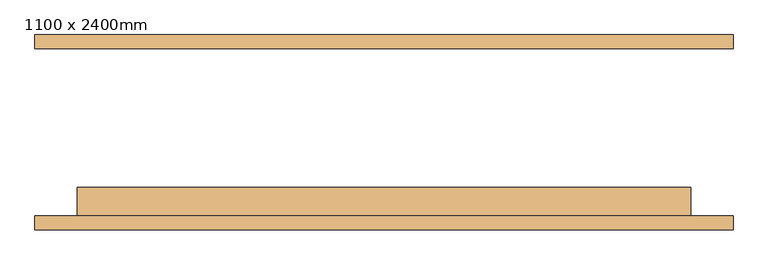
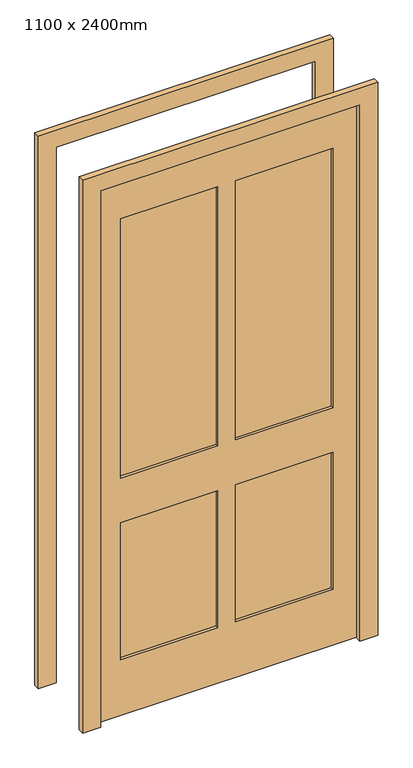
"""IFC4 building model written with IfcOpenShell, lengths in millimetres: door geometry, JednokridleOteviraveSkloVypln : 1100 x 2400mm."""

from ifc_helpers import new_model, si_unit, frame, origin, place, context, project, spatial, polyline, outline, extrude, source, transform, mapped, element, save


def door_1100_x_2400mm_ddb7a374(model_context):
    return source(origin(), model_context, "Body", "SweptSolid", [
        extrude(outline(polyline([(2476.0, -626.0), (0.0, -626.0), (0.0, -550.1240165), (2401.3906173, -550.1240165), (2401.3906173, 549.8759835), (0.0, 549.8759835), (0.0, 626.0), (2476.0, 626.0), (2476.0, -626.0)])), frame((0.0, -175.005, 0.0), z_axis=(0.0, 1.0, 0.0), x_axis=(0.0, 0.0, 1.0)), (0.0, 0.0, 1.0), 25.0),
        extrude(outline(polyline([(2476.0, 626.0), (2476.0, -626.0), (1.3906173, -626.0), (1.3906173, -550.1240165), (2400.0, -550.1240165), (2400.0, 550.0), (0.0, 550.0), (0.0, 626.0), (2476.0, 626.0)])), frame((0.0, 149.995, 0.0), z_axis=(0.0, 1.0, 0.0), x_axis=(0.0, 0.0, 1.0)), (0.0, 0.0, 1.0), 25.0),
        extrude(outline(polyline([(-37.9166629, -111.905), (-37.9166629, -137.305), (-450.0, -137.305), (-450.0, -111.905), (-37.9166629, -111.905)])), frame((0.0, 0.0, 1063.6), z_axis=(0.0, 0.0, 1.0), x_axis=(1.0, 0.0, 0.0)), (0.0, 0.0, 1.0), 1161.6046757),
        extrude(outline(polyline([(450.0, -111.905), (450.0, -137.305), (37.4271634, -137.305), (37.4271634, -111.905), (450.0, -111.905)])), frame((0.0, 0.0, 1063.6), z_axis=(0.0, 0.0, 1.0), x_axis=(1.0, 0.0, 0.0)), (0.0, 0.0, 1.0), 1161.6046757),
        extrude(outline(polyline([(-37.9166629, -111.905), (-37.9166629, -137.305), (-450.0, -137.305), (-450.0, -111.905), (-37.9166629, -111.905)])), frame((0.0, 0.0, 250.2046757), z_axis=(0.0, 0.0, 1.0), x_axis=(1.0, 0.0, 0.0)), (0.0, 0.0, 1.0), 613.6),
        extrude(outline(polyline([(450.0, -111.905), (450.0, -137.305), (37.4271634, -137.305), (37.4271634, -111.905), (450.0, -111.905)])), frame((0.0, 0.0, 250.2046757), z_axis=(0.0, 0.0, 1.0), x_axis=(1.0, 0.0, 0.0)), (0.0, 0.0, 1.0), 613.3953243),
        extrude(outline(polyline([(2401.3906173, 549.8759835), (2401.3906173, -550.1240165), (1.3906173, -550.1240165), (1.3906173, 549.8759835), (2401.3906173, 549.8759835)]), holes=[polyline([(2226.595293, -38.2240165), (1064.9906173, -38.2240165), (1064.9906173, -449.4511799), (2226.595293, -449.4511799), (2226.595293, -38.2240165)]), polyline([(2226.595293, 450.5488201), (1064.9906173, 450.5488201), (1064.9906173, 37.9759835), (2226.595293, 37.9759835), (2226.595293, 450.5488201)]), polyline([(865.195293, -38.2240165), (251.595293, -38.2240165), (251.595293, -449.4511799), (865.195293, -449.4511799), (865.195293, -38.2240165)]), polyline([(864.9906173, 450.5488201), (251.595293, 450.5488201), (251.595293, 37.9759835), (864.9906173, 37.9759835), (864.9906173, 450.5488201)])]), frame((0.0, -150.005, 0.0), z_axis=(0.0, 1.0, 0.0), x_axis=(0.0, 0.0, 1.0)), (0.0, 0.0, 1.0), 51.0),
    ])


if __name__ == "__main__":
    model = new_model("IFC4")
    model_context = context("Model", 3, world=origin())
    ifc_project = project(units=[si_unit("LENGTHUNIT", "METRE", prefix="MILLI")], contexts=[model_context])
    site = spatial("IfcSite", under=ifc_project)
    building = spatial("IfcBuilding", under=site)
    placement = place(None, origin())
    door_1100_x_2400mm_shape = door_1100_x_2400mm_ddb7a374(model_context)
    element("IfcDoor", 1, ObjectType="JednokridleOteviraveSkloVypln : 1100 x 2400mm", at=placement, inside=building, context=model_context, shape_type="MappedRepresentation", body=[
        mapped(door_1100_x_2400mm_shape, transform((0.0, 0.0, 0.0), x_axis=(1.0, 0.0, 0.0), y_axis=(0.0, 1.0, 0.0), z_axis=(0.0, 0.0, 1.0))),
    ])
    save(model, "model.ifc")
